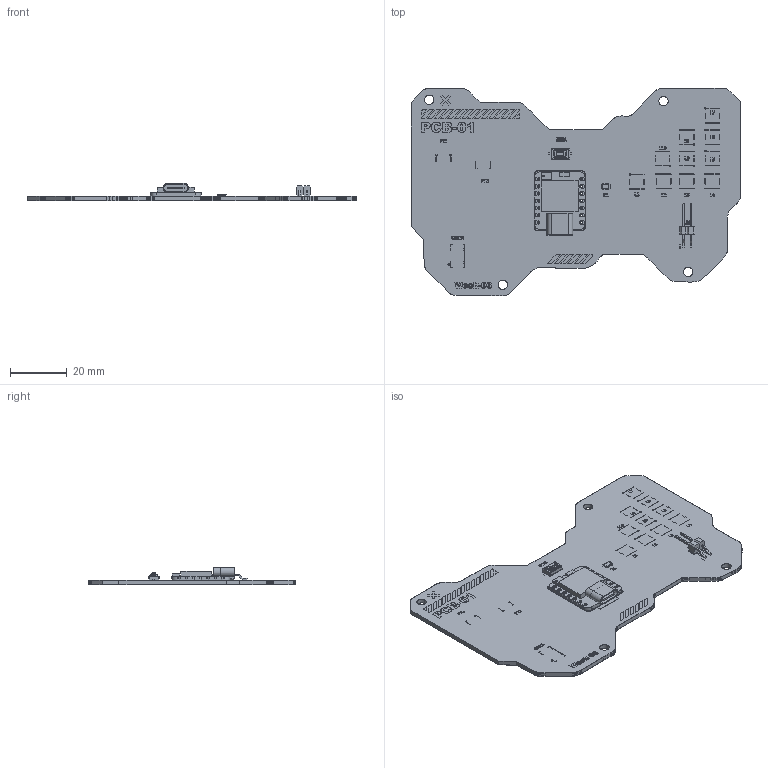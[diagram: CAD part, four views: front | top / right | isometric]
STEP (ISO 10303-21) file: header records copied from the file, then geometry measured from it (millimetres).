
FILE_DESCRIPTION(('KiCad electronic assembly'),'2;1');
FILE_NAME('Week06PCB.step','2026-03-03T20:16:01',('Pcbnew'),('Kicad'), 'Open CASCADE STEP processor 7.9','KiCad to STEP converter','Unknown' );
FILE_SCHEMA(('AUTOMOTIVE_DESIGN { 1 0 10303 214 1 1 1 1 }'));
Length unit declared in the file: millimetre
Products named in the file (40): Week06PCB 1; Header_SMD_01x02_P2.54mm_Horizontal_Male; Week06PCB 1.1.1; Week06PCB 1.1.2; Switch_CnK-PTS636SM25FSMTR; LeadA; LeadB; Cover; Button; Resistor-1206; Ceramic; Contacts; Contacts (Mirror #1); Overcoat; Seeed_XIAO-nRF52840_Sense; SoC_nRF_Sense; Mic_nRF_Sense; Antenna_nRF_Sense; XIAO_Generic; Board; USB; Contact; Contact Clones; Body007; Body008; Body009; Body010; Body011; Body012; Body013; Body014; Body015; Body016; Body017; Body018; Body019; Week06PCB_silkscreen; Week06PCB_soldermask; Week06PCB_PCB
Assembly tree (39 placements, depth 5):
  Week06PCB 1
    Header_SMD_01x02_P2.54mm_Horizontal_Male
      Week06PCB 1.1.1
      Week06PCB 1.1.2
    Switch_CnK-PTS636SM25FSMTR
      LeadA
      LeadB
      Cover
      Button
    Resistor-1206
      Ceramic
      Contacts
      Contacts (Mirror #1)
      Overcoat
    Seeed_XIAO-nRF52840_Sense
      SoC_nRF_Sense
      Mic_nRF_Sense
      Antenna_nRF_Sense
      XIAO_Generic
        Board
        USB
        Contact
        Contact Clones
          Body007
          Body008
          Body009
          Body010
          Body011
          Body012
          Body013
          Body014
          Body015
          Body016
          Body017
          Body018
          Body019
    Week06PCB_silkscreen
    Week06PCB_soldermask
    Week06PCB_soldermask
    Week06PCB_PCB
Bounding box: 115.74 x 73 x 6.11 mm (x, y, z)
Volume: 11074 mm3; surface area: 29940.1 mm2
Topology: 32 solids, 202 shells, 939 faces, 4603 edges, 3894 vertices
Faces by surface type: plane 752, cylinder 167, bspline 8, sphere 8, revolution 4
Full cylindrical faces by diameter (mm): 0.5 x1, 0.7 x14, 0.8 x42, 3.31 x4
Entity records: 49585 total; most frequent: CARTESIAN_POINT 9994, DIRECTION 7420, ORIENTED_EDGE 6624, EDGE_CURVE 4595, VERTEX_POINT 3894, LINE 3644, VECTOR 3644, AXIS2_PLACEMENT_3D 1886
